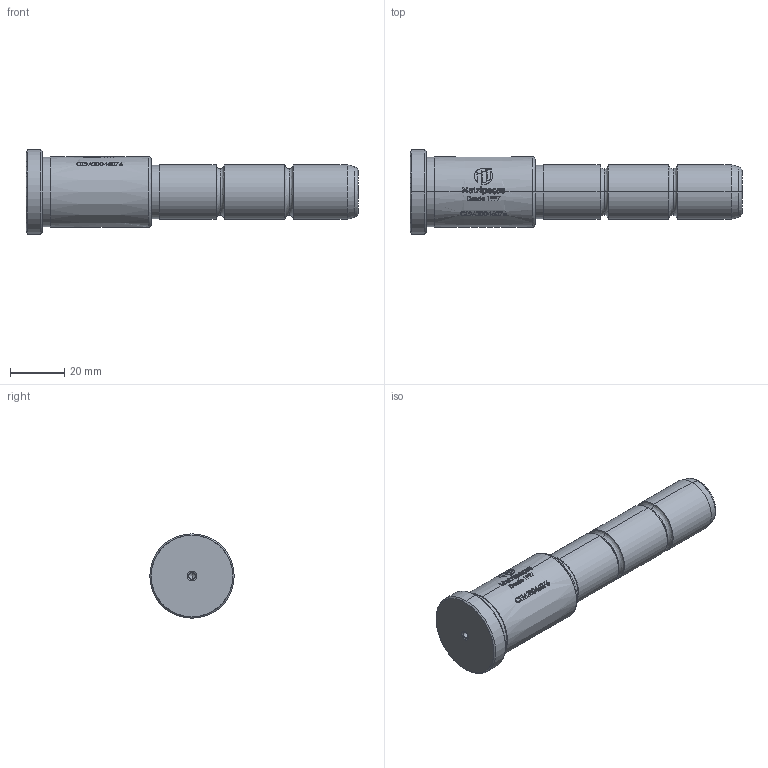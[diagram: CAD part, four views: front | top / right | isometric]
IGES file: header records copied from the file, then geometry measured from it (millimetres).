
Start section: SolidWorks IGES file using analytic representation for surfaces
Global section: file name: E:\1.TRIVECTOR\Clientes\MATRIPEÇAS\PEÇAS_CATALOGO_SITE\4.CEM - COLUNA CONJ. EXTRATOR (CATÁLOGO)\CEM20046076.IGS; native system: SolidWorks 2024; preprocessor: SolidWorks 2024; author: Gabriel Techio; date: 260901.163620; units: millimetre
Bounding box: 122 x 31 x 31 mm (x, y, z)
Surface area: 10313.9 mm2 (no closed solid volume)
Topology: 0 solids, 0 shells, 496 faces, 4985 edges, 4981 vertices
Faces by surface type: bspline 400, revolution 96
